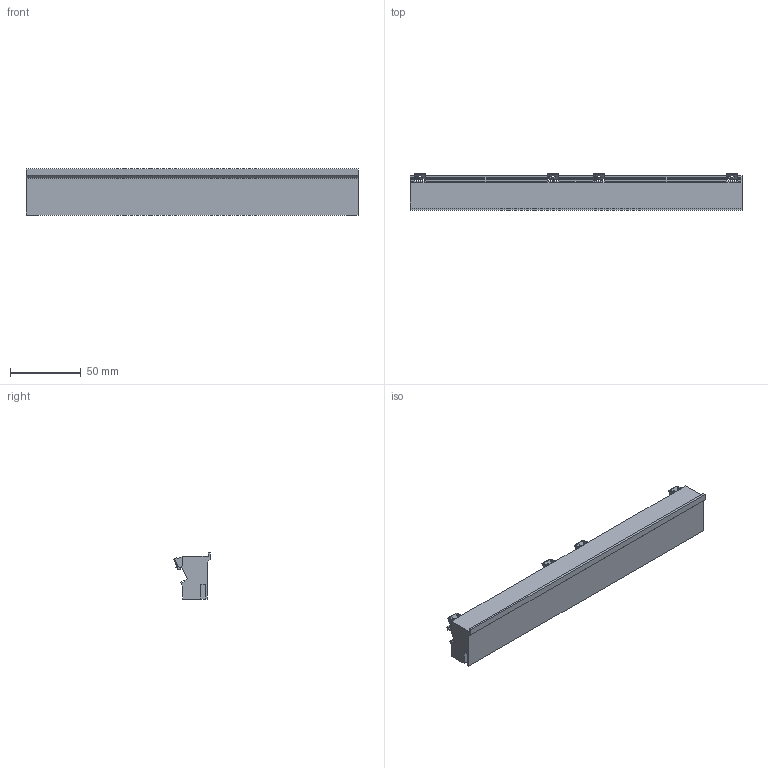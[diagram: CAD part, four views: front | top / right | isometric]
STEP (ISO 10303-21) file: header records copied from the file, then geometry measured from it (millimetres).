
FILE_DESCRIPTION(('Open CASCADE Model'),'2;1');
FILE_NAME('SOLID','2026-10-21T18:51:11',('Author'),('Open CASCADE'), 'Open CASCADE STEP processor 8.0','build123d','Unknown');
FILE_SCHEMA(('AUTOMOTIVE_DESIGN { 1 0 10303 214 1 1 1 1 }'));
Products named in the file (1): SOLID
Bounding box: 234 x 25.92 x 32.5 mm (x, y, z)
Volume: 122751.2 mm3; surface area: 30267.3 mm2
Topology: 1 solids, 1 shells, 616 faces, 1748 edges, 1122 vertices
Faces by surface type: plane 339, cylinder 276, bspline 1
Entity records: 47279 total; most frequent: CARTESIAN_POINT 13968, DIRECTION 5947, ORIENTED_EDGE 3496, PCURVE 3496, DEFINITIONAL_REPRESENTATION 3496, LINE 2706, VECTOR 2706, EDGE_CURVE 1748
